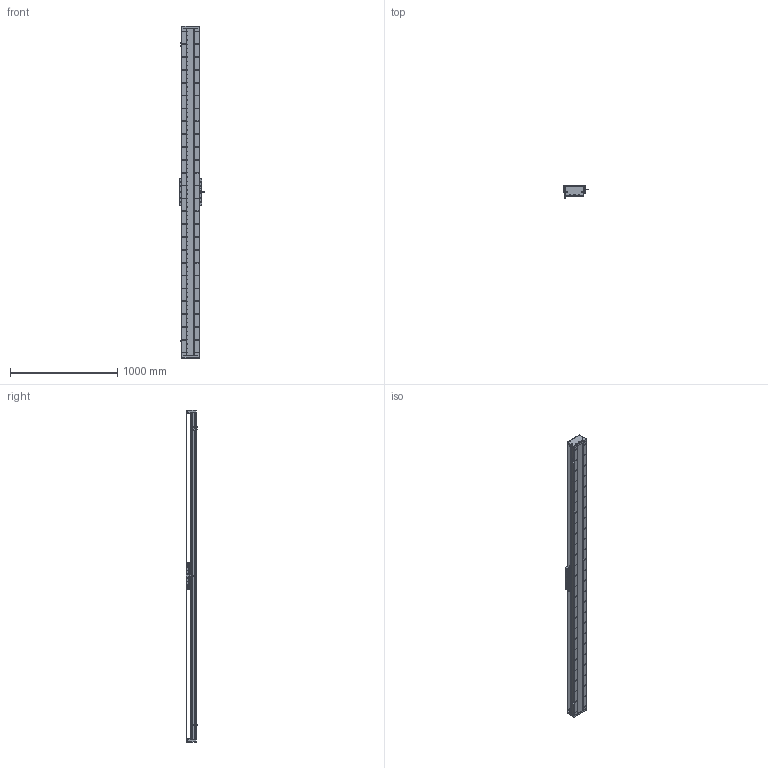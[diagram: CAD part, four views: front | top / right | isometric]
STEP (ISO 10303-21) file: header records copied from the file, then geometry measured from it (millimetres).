
FILE_DESCRIPTION (( 'STEP AP203' ), '1' );
FILE_NAME ('DA-C165-C3-T2760-C010-0.2 直线电机.STEP', '2023-06-13T08:56:44', ( '微软用户' ), ( '微软中国' ), 'SwSTEP 2.0', 'SolidWorks 2019', '' );
FILE_SCHEMA (( 'CONFIG_CONTROL_DESIGN' ));
Length unit declared in the file: millimetre
Products named in the file (18): IU-CU165-L 菁釱絳寢; 珨极趙賑雄怢啣C3-wf; 复件 DA165-GDYK-00 钢带压块^复件 CU165钢带组件_DA-C165-C3-T-C010-0.2-N 直线电机; 复件 六角薄螺母 M3^DA-C165-C3-T-C010-0.2-N 直线电机_GB_FASTENER_NUT_STNAB M3-C; 复件 DMA-010-0.2 读数头^DA-C165-C3-T-C010-0.2-N 直线电机; DA-C165-C3-T2760-C010-0.2 眻盄萇儂; 复件 DA165-GD-1860-002-00 钢带盖板^复件 CU165钢带组件_DA-C165-C3-T-C010-0.2-N 直线电机; 复件 CU165钢带组件^DA-C165-C3-T-C010-0.2-N 直线电机; 复件 DA165-GD-DG-H-00 端盖^复件 CU165钢带组件_DA-C165-C3-T-C010-0.2-N 直线电机; 复件 DA165-GDLK-00 钢带拉块^复件 CU165钢带组件_DA-C165-C3-T-C010-0.2-N 直线电机; 葩璃 PM-T45^DA-C165-C3-T-C010-0.2-N 眻盄萇儂; 葩璃 CKM03-W075-C1C2-TP-3.0^DA-C165-C3-T-C010-0.2-N 眻盄萇儂; 葩璃 CKM01-W075-TRL^DA-C165-C3-T-C010-0.2-N 眻盄萇儂; 复件 DA165-GYP-00 光电感应片^DA-C165-C3-T-C010-0.2-N 直线电机; 葩璃 DA95-GT-T-00^IU-CU165-L 菁釱絳寢_T; 复件 DA95-HXJ-00 缓冲橡胶^DA-C165-C3-T-C010-0.2-N 直线电机; 复件 CU165 底座^IU-CU165-L 底座导轨_L3060; 复件 XD-U-02L 磁栅尺^DA-C165-C3-T-C010-0.2-N 直线电机_T
Assembly tree (35 placements, depth 3):
  DA-C165-C3-T2760-C010-0.2 眻盄萇儂
    IU-CU165-L 菁釱絳寢
      复件 CU165 底座^IU-CU165-L 底座导轨_L3060
      葩璃 DA95-GT-T-00^IU-CU165-L 菁釱絳寢_T  x4
    复件 XD-U-02L 磁栅尺^DA-C165-C3-T-C010-0.2-N 直线电机_T
    葩璃 PM-T45^DA-C165-C3-T-C010-0.2-N 眻盄萇儂  x3
    葩璃 CKM01-W075-TRL^DA-C165-C3-T-C010-0.2-N 眻盄萇儂
    复件 CU165钢带组件^DA-C165-C3-T-C010-0.2-N 直线电机
      复件 DA165-GD-DG-H-00 端盖^复件 CU165钢带组件_DA-C165-C3-T-C010-0.2-N 直线电机  x2
      复件 DA165-GDYK-00 钢带压块^复件 CU165钢带组件_DA-C165-C3-T-C010-0.2-N 直线电机  x2
      复件 DA165-GD-1860-002-00 钢带盖板^复件 CU165钢带组件_DA-C165-C3-T-C010-0.2-N 直线电机
      复件 DA165-GDLK-00 钢带拉块^复件 CU165钢带组件_DA-C165-C3-T-C010-0.2-N 直线电机  x2
    复件 DA95-HXJ-00 缓冲橡胶^DA-C165-C3-T-C010-0.2-N 直线电机  x4
    复件 DA165-GYP-00 光电感应片^DA-C165-C3-T-C010-0.2-N 直线电机
    复件 DMA-010-0.2 读数头^DA-C165-C3-T-C010-0.2-N 直线电机
    葩璃 CKM03-W075-C1C2-TP-3.0^DA-C165-C3-T-C010-0.2-N 眻盄萇儂
    复件 六角薄螺母 M3^DA-C165-C3-T-C010-0.2-N 直线电机_GB_FASTENER_NUT_STNAB M3-C  x8
    珨极趙賑雄怢啣C3-wf
Bounding box: 233 x 111.45 x 3100 mm (x, y, z)
Volume: 17391421.2 mm3; surface area: 5210910.1 mm2
Topology: 72 solids, 122 shells, 4602 faces, 13403 edges, 8510 vertices
Faces by surface type: cylinder 2744, plane 1232, cone 576, torus 46, sphere 4
Entity records: 156075 total; most frequent: CARTESIAN_POINT 43333, ORIENTED_EDGE 23558, DIRECTION 22739, EDGE_CURVE 11779, AXIS2_PLACEMENT_3D 8760, VERTEX_POINT 7698, EDGE_LOOP 5431, LINE 5219
